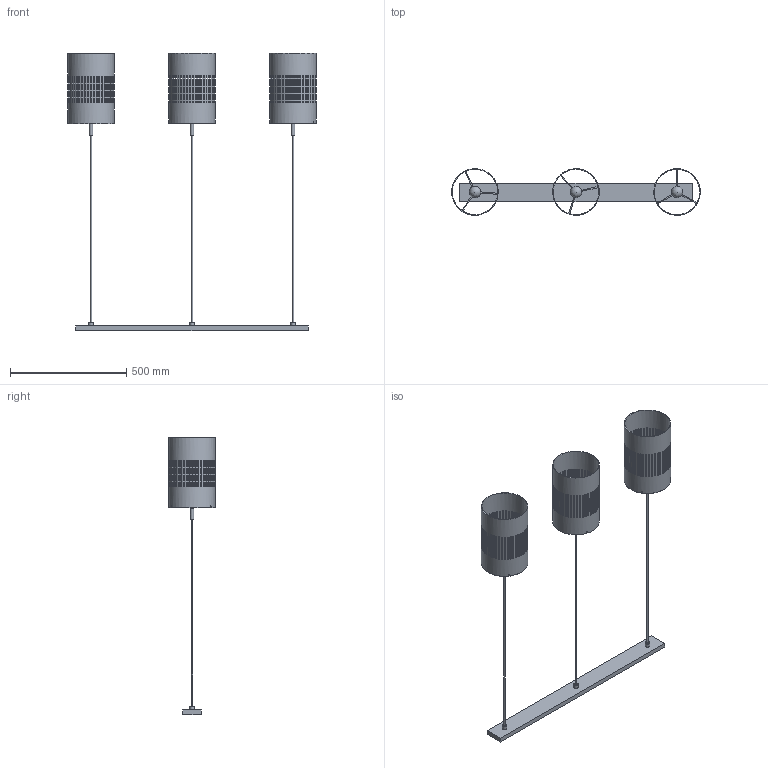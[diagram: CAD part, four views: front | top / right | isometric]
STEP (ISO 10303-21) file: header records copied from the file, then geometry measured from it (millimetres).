
FILE_DESCRIPTION(/* description */ (''),/* implementation_level */ '2;1');
FILE_NAME(/* name */ 'D:\TK Lighting\2021\_Bogard\Bogard Black 3215.stp',/* time_stamp */ '2021-03-01T13:40:37+01:00',/* author */ ('Admin'),/* organization */ (''),/* preprocessor_version */ 'ST-DEVELOPER v16.5',/* originating_system */ 'Autodesk Inventor 2017',/* authorisation */ '');
FILE_SCHEMA (('AUTOMOTIVE_DESIGN { 1 0 10303 214 3 1 1 }'));
Products named in the file (4): Bogard Black 3215; Zawiesie 3215; Podsufit 3215; Klosz Bogard Black
Assembly tree (7 placements, depth 2):
  Bogard Black 3215
    Zawiesie 3215  x3
    Podsufit 3215
    Klosz Bogard Black  x3
Bounding box: 1070 x 200 x 1193 mm (x, y, z)
Volume: 2801872.1 mm3; surface area: 1451330.1 mm2
Topology: 10 solids, 10 shells, 7146 faces, 21333 edges, 14222 vertices
Faces by surface type: plane 7098, cylinder 42, sphere 6
Full cylindrical faces by diameter (mm): 5 x12, 10 x6, 15 x3, 20 x3, 24 x3, 26 x6, 30 x3, 196 x3, 200 x3
Entity records: 83508 total; most frequent: CARTESIAN_POINT 14441, DIRECTION 14272, ORIENTED_EDGE 14200, EDGE_CURVE 7099, AXIS2_PLACEMENT_3D 4778, VERTEX_POINT 4743, LINE 4716, VECTOR 4716
